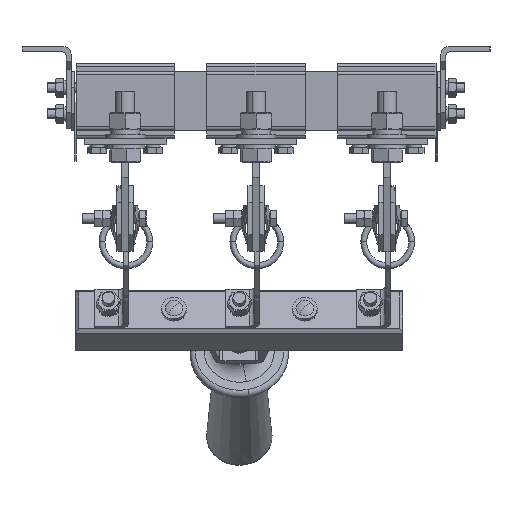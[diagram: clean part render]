
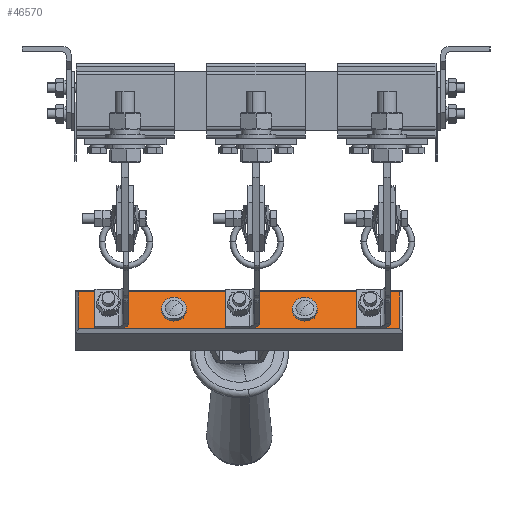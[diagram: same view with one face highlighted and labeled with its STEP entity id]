
A CAD part, front view. The second image highlights one B-rep face of the part: STEP entity #46570.
In plain terms, the highlighted planar face has unit normal (0, -0.866, 0.5).
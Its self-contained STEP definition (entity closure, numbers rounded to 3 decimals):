
#1394 = DIRECTION ( 'NONE',  ( 1., 0., 0. ) ) ;
#2194 = CARTESIAN_POINT ( 'NONE',  ( 22.2, 98.479, -128.084 ) ) ;
#2971 = CARTESIAN_POINT ( 'NONE',  ( 149.8, 98.479, -128.084 ) ) ;
#3406 = CARTESIAN_POINT ( 'NONE',  ( 149.8, 98.479, -128.084 ) ) ;
#3572 = CARTESIAN_POINT ( 'NONE',  ( 167.8, 91.979, -139.343 ) ) ;
#4131 = AXIS2_PLACEMENT_3D ( 'NONE', #78814, #36061, #50619 ) ;
#5028 = ORIENTED_EDGE ( 'NONE', *, *, #14478, .F. ) ;
#6807 = AXIS2_PLACEMENT_3D ( 'NONE', #2971, #39659, #89328 ) ;
#6938 = DIRECTION ( 'NONE',  ( 1., 0., 0. ) ) ;
#7005 = VERTEX_POINT ( 'NONE', #81683 ) ;
#7674 = FACE_BOUND ( 'NONE', #88251, .T. ) ;
#8508 = EDGE_CURVE ( 'NONE', #58444, #36361, #17530, .T. ) ;
#8764 = CIRCLE ( 'NONE', #50481, 4.5 ) ;
#8799 = VECTOR ( 'NONE', #1394, 1000. ) ;
#9814 = VERTEX_POINT ( 'NONE', #66272 ) ;
#9927 = FACE_BOUND ( 'NONE', #26093, .T. ) ;
#11588 = ORIENTED_EDGE ( 'NONE', *, *, #46699, .F. ) ;
#13051 = CARTESIAN_POINT ( 'NONE',  ( -30.2, 90.979, -141.075 ) ) ;
#14221 = VECTOR ( 'NONE', #33907, 1000. ) ;
#14478 = EDGE_CURVE ( 'NONE', #45461, #24723, #42297, .T. ) ;
#14840 = DIRECTION ( 'NONE',  ( 1., 0., 0. ) ) ;
#15129 = DIRECTION ( 'NONE',  ( 0., 0.866, -0.5 ) ) ;
#15368 = CIRCLE ( 'NONE', #80852, 4.5 ) ;
#17530 = CIRCLE ( 'NONE', #32405, 7.6 ) ;
#18082 = CARTESIAN_POINT ( 'NONE',  ( 69.8, 98.479, -128.084 ) ) ;
#18151 = DIRECTION ( 'NONE',  ( 0., -0.866, 0.5 ) ) ;
#18639 = ORIENTED_EDGE ( 'NONE', *, *, #63853, .T. ) ;
#18807 = VERTEX_POINT ( 'NONE', #81785 ) ;
#19304 = EDGE_LOOP ( 'NONE', ( #45749, #37031 ) ) ;
#19463 = DIRECTION ( 'NONE',  ( 0., -0.866, 0.5 ) ) ;
#21267 = DIRECTION ( 'NONE',  ( 0., 0.866, -0.5 ) ) ;
#22129 = EDGE_CURVE ( 'NONE', #18807, #91140, #31770, .T. ) ;
#22138 = CARTESIAN_POINT ( 'NONE',  ( -5.7, 98.479, -128.084 ) ) ;
#23765 = CIRCLE ( 'NONE', #27595, 4.5 ) ;
#23993 = VERTEX_POINT ( 'NONE', #3572 ) ;
#24723 = VERTEX_POINT ( 'NONE', #2194 ) ;
#25114 = CARTESIAN_POINT ( 'NONE',  ( 37.4, 98.479, -128.084 ) ) ;
#26093 = EDGE_LOOP ( 'NONE', ( #51429, #5028 ) ) ;
#26652 = FACE_BOUND ( 'NONE', #58099, .T. ) ;
#27242 = DIRECTION ( 'NONE',  ( 0., -0.866, 0.5 ) ) ;
#27595 = AXIS2_PLACEMENT_3D ( 'NONE', #18082, #46948, #82652 ) ;
#28340 = DIRECTION ( 'NONE',  ( 0., 0.866, -0.5 ) ) ;
#30218 = DIRECTION ( 'NONE',  ( -1., 0., 0. ) ) ;
#31583 = CARTESIAN_POINT ( 'NONE',  ( 109.8, 98.479, -128.084 ) ) ;
#31713 = VECTOR ( 'NONE', #62090, 1000. ) ;
#31770 = CIRCLE ( 'NONE', #53074, 4.5 ) ;
#32405 = AXIS2_PLACEMENT_3D ( 'NONE', #31583, #18151, #52667 ) ;
#32602 = CIRCLE ( 'NONE', #42690, 7.6 ) ;
#33191 = DIRECTION ( 'NONE',  ( -1., 0., 0. ) ) ;
#33907 = DIRECTION ( 'NONE',  ( 0., 0.5, 0.866 ) ) ;
#33912 = AXIS2_PLACEMENT_3D ( 'NONE', #56530, #28340, #77884 ) ;
#33919 = CARTESIAN_POINT ( 'NONE',  ( -28.2, 90.979, -141.075 ) ) ;
#35592 = LINE ( 'NONE', #86214, #8799 ) ;
#36061 = DIRECTION ( 'NONE',  ( 0., -0.866, 0.5 ) ) ;
#36361 = VERTEX_POINT ( 'NONE', #42999 ) ;
#37031 = ORIENTED_EDGE ( 'NONE', *, *, #73372, .T. ) ;
#37609 = LINE ( 'NONE', #70461, #14221 ) ;
#38151 = CARTESIAN_POINT ( 'NONE',  ( 154.3, 98.479, -128.084 ) ) ;
#38527 = CIRCLE ( 'NONE', #6807, 4.5 ) ;
#39562 = EDGE_CURVE ( 'NONE', #9814, #78706, #50559, .T. ) ;
#39659 = DIRECTION ( 'NONE',  ( 0., 0.866, -0.5 ) ) ;
#42136 = EDGE_CURVE ( 'NONE', #78706, #23993, #35592, .T. ) ;
#42239 = ORIENTED_EDGE ( 'NONE', *, *, #80101, .T. ) ;
#42297 = CIRCLE ( 'NONE', #55773, 7.6 ) ;
#42690 = AXIS2_PLACEMENT_3D ( 'NONE', #75338, #19463, #33191 ) ;
#42999 = CARTESIAN_POINT ( 'NONE',  ( 117.4, 98.479, -128.084 ) ) ;
#43315 = EDGE_LOOP ( 'NONE', ( #42239, #90549 ) ) ;
#45461 = VERTEX_POINT ( 'NONE', #25114 ) ;
#45519 = EDGE_CURVE ( 'NONE', #24723, #45461, #32602, .T. ) ;
#45749 = ORIENTED_EDGE ( 'NONE', *, *, #22129, .T. ) ;
#46359 = CIRCLE ( 'NONE', #33912, 4.5 ) ;
#46532 = FACE_OUTER_BOUND ( 'NONE', #55479, .T. ) ;
#46570 = ADVANCED_FACE ( 'NONE', ( #26652, #9927, #46532, #84327, #7674, #81006 ), #55639, .T. ) ;
#46699 = EDGE_CURVE ( 'NONE', #36361, #58444, #78572, .T. ) ;
#46948 = DIRECTION ( 'NONE',  ( 0., 0.866, -0.5 ) ) ;
#47988 = DIRECTION ( 'NONE',  ( -1., 0., 0. ) ) ;
#49343 = AXIS2_PLACEMENT_3D ( 'NONE', #13051, #76056, #68624 ) ;
#50481 = AXIS2_PLACEMENT_3D ( 'NONE', #85512, #21267, #6938 ) ;
#50500 = VERTEX_POINT ( 'NONE', #66734 ) ;
#50559 = LINE ( 'NONE', #33919, #31713 ) ;
#50619 = DIRECTION ( 'NONE',  ( 1., 0., 0. ) ) ;
#50662 = ORIENTED_EDGE ( 'NONE', *, *, #56480, .T. ) ;
#50921 = ORIENTED_EDGE ( 'NONE', *, *, #64410, .T. ) ;
#51429 = ORIENTED_EDGE ( 'NONE', *, *, #45519, .F. ) ;
#52052 = EDGE_CURVE ( 'NONE', #88916, #62011, #15368, .T. ) ;
#52667 = DIRECTION ( 'NONE',  ( 1., 0., 0. ) ) ;
#53074 = AXIS2_PLACEMENT_3D ( 'NONE', #92170, #15129, #14840 ) ;
#54194 = CARTESIAN_POINT ( 'NONE',  ( 65.3, 98.479, -128.084 ) ) ;
#55479 = EDGE_LOOP ( 'NONE', ( #92156, #90002, #59956, #50662 ) ) ;
#55639 = PLANE ( 'NONE',  #49343 ) ;
#55773 = AXIS2_PLACEMENT_3D ( 'NONE', #62842, #27242, #47988 ) ;
#56480 = EDGE_CURVE ( 'NONE', #23993, #7005, #37609, .T. ) ;
#56530 = CARTESIAN_POINT ( 'NONE',  ( -10.2, 98.479, -128.084 ) ) ;
#58099 = EDGE_LOOP ( 'NONE', ( #11588, #65823 ) ) ;
#58108 = CARTESIAN_POINT ( 'NONE',  ( -30.2, 104.979, -116.826 ) ) ;
#58444 = VERTEX_POINT ( 'NONE', #84589 ) ;
#59956 = ORIENTED_EDGE ( 'NONE', *, *, #42136, .T. ) ;
#62011 = VERTEX_POINT ( 'NONE', #78579 ) ;
#62090 = DIRECTION ( 'NONE',  ( 0., -0.5, -0.866 ) ) ;
#62842 = CARTESIAN_POINT ( 'NONE',  ( 29.8, 98.479, -128.084 ) ) ;
#63853 = EDGE_CURVE ( 'NONE', #86686, #50500, #8764, .T. ) ;
#64410 = EDGE_CURVE ( 'NONE', #50500, #86686, #46359, .T. ) ;
#65823 = ORIENTED_EDGE ( 'NONE', *, *, #8508, .F. ) ;
#66272 = CARTESIAN_POINT ( 'NONE',  ( -28.2, 104.979, -116.826 ) ) ;
#66734 = CARTESIAN_POINT ( 'NONE',  ( -14.7, 98.479, -128.084 ) ) ;
#67820 = EDGE_CURVE ( 'NONE', #7005, #9814, #83392, .T. ) ;
#68624 = DIRECTION ( 'NONE',  ( -1., 0., 0. ) ) ;
#70461 = CARTESIAN_POINT ( 'NONE',  ( 167.8, 105.979, -115.094 ) ) ;
#73372 = EDGE_CURVE ( 'NONE', #91140, #18807, #23765, .T. ) ;
#75338 = CARTESIAN_POINT ( 'NONE',  ( 29.8, 98.479, -128.084 ) ) ;
#76056 = DIRECTION ( 'NONE',  ( 0., -0.866, 0.5 ) ) ;
#77884 = DIRECTION ( 'NONE',  ( 1., 0., 0. ) ) ;
#78022 = CARTESIAN_POINT ( 'NONE',  ( -28.2, 91.979, -139.343 ) ) ;
#78572 = CIRCLE ( 'NONE', #4131, 7.6 ) ;
#78579 = CARTESIAN_POINT ( 'NONE',  ( 145.3, 98.479, -128.084 ) ) ;
#78706 = VERTEX_POINT ( 'NONE', #78022 ) ;
#78814 = CARTESIAN_POINT ( 'NONE',  ( 109.8, 98.479, -128.084 ) ) ;
#78919 = VECTOR ( 'NONE', #30218, 1000. ) ;
#80101 = EDGE_CURVE ( 'NONE', #62011, #88916, #38527, .T. ) ;
#80852 = AXIS2_PLACEMENT_3D ( 'NONE', #3406, #82275, #89453 ) ;
#81006 = FACE_BOUND ( 'NONE', #19304, .T. ) ;
#81683 = CARTESIAN_POINT ( 'NONE',  ( 167.8, 104.979, -116.826 ) ) ;
#81785 = CARTESIAN_POINT ( 'NONE',  ( 74.3, 98.479, -128.084 ) ) ;
#82275 = DIRECTION ( 'NONE',  ( 0., 0.866, -0.5 ) ) ;
#82652 = DIRECTION ( 'NONE',  ( 1., 0., 0. ) ) ;
#83392 = LINE ( 'NONE', #58108, #78919 ) ;
#84327 = FACE_BOUND ( 'NONE', #43315, .T. ) ;
#84589 = CARTESIAN_POINT ( 'NONE',  ( 102.2, 98.479, -128.084 ) ) ;
#85512 = CARTESIAN_POINT ( 'NONE',  ( -10.2, 98.479, -128.084 ) ) ;
#86214 = CARTESIAN_POINT ( 'NONE',  ( 169.8, 91.979, -139.343 ) ) ;
#86686 = VERTEX_POINT ( 'NONE', #22138 ) ;
#88251 = EDGE_LOOP ( 'NONE', ( #18639, #50921 ) ) ;
#88916 = VERTEX_POINT ( 'NONE', #38151 ) ;
#89328 = DIRECTION ( 'NONE',  ( -1., 0., 0. ) ) ;
#89453 = DIRECTION ( 'NONE',  ( -1., 0., 0. ) ) ;
#90002 = ORIENTED_EDGE ( 'NONE', *, *, #39562, .T. ) ;
#90549 = ORIENTED_EDGE ( 'NONE', *, *, #52052, .T. ) ;
#91140 = VERTEX_POINT ( 'NONE', #54194 ) ;
#92156 = ORIENTED_EDGE ( 'NONE', *, *, #67820, .T. ) ;
#92170 = CARTESIAN_POINT ( 'NONE',  ( 69.8, 98.479, -128.084 ) ) ;
